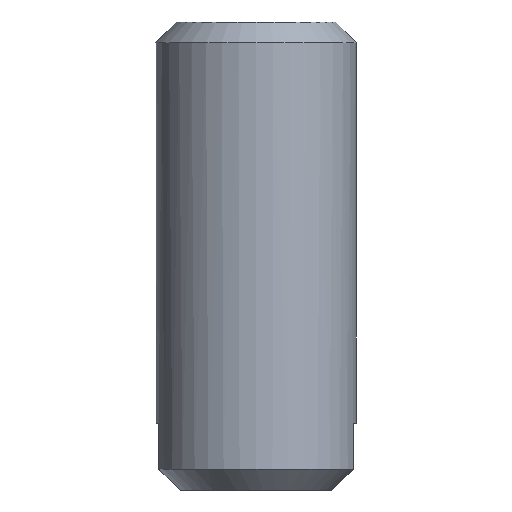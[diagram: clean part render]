
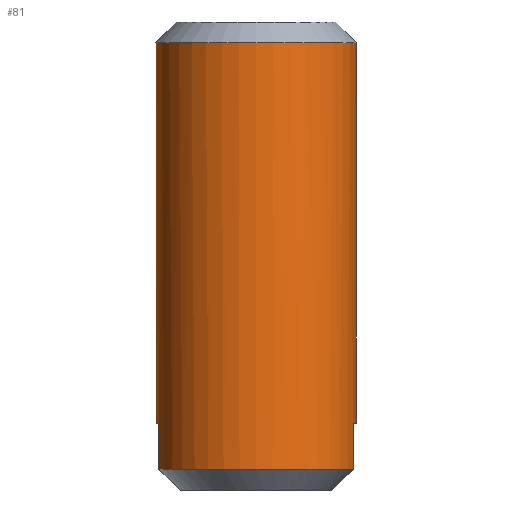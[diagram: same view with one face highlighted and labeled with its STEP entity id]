
A CAD part, front view. The second image highlights one B-rep face of the part: STEP entity #81.
In plain terms, the highlighted cylindrical face has radius 3 mm (diameter 6 mm), a full revolution.
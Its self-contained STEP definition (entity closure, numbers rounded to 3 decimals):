
#81 = ADVANCED_FACE( '', ( #104, #105 ), #106, .T. );
#104 = FACE_OUTER_BOUND( '', #133, .T. );
#105 = FACE_OUTER_BOUND( '', #134, .T. );
#106 = CYLINDRICAL_SURFACE( '', #135, 3. );
#133 = EDGE_LOOP( '', ( #184 ) );
#134 = EDGE_LOOP( '', ( #185, #186, #187, #188, #189, #190, #191, #192 ) );
#135 = AXIS2_PLACEMENT_3D( '', #193, #194, #195 );
#184 = ORIENTED_EDGE( '', *, *, #243, .F. );
#185 = ORIENTED_EDGE( '', *, *, #236, .F. );
#186 = ORIENTED_EDGE( '', *, *, #244, .T. );
#187 = ORIENTED_EDGE( '', *, *, #228, .F. );
#188 = ORIENTED_EDGE( '', *, *, #245, .T. );
#189 = ORIENTED_EDGE( '', *, *, #230, .F. );
#190 = ORIENTED_EDGE( '', *, *, #246, .T. );
#191 = ORIENTED_EDGE( '', *, *, #234, .F. );
#192 = ORIENTED_EDGE( '', *, *, #247, .T. );
#193 = CARTESIAN_POINT( '', ( 0., 0., 0. ) );
#194 = DIRECTION( '', ( 0., 0., -1. ) );
#195 = DIRECTION( '', ( 1., 0., 0. ) );
#228 = EDGE_CURVE( '', #251, #253, #254, .T. );
#230 = EDGE_CURVE( '', #255, #257, #258, .F. );
#234 = EDGE_CURVE( '', #263, #265, #266, .T. );
#236 = EDGE_CURVE( '', #267, #269, #270, .F. );
#243 = EDGE_CURVE( '', #280, #280, #281, .T. );
#244 = EDGE_CURVE( '', #267, #253, #282, .T. );
#245 = EDGE_CURVE( '', #251, #257, #283, .T. );
#246 = EDGE_CURVE( '', #255, #265, #284, .T. );
#247 = EDGE_CURVE( '', #263, #269, #285, .T. );
#251 = VERTEX_POINT( '', #289 );
#253 = VERTEX_POINT( '', #294 );
#254 = LINE( '', #295, #296 );
#255 = VERTEX_POINT( '', #297 );
#257 = VERTEX_POINT( '', #300 );
#258 = LINE( '', #301, #302 );
#263 = VERTEX_POINT( '', #311 );
#265 = VERTEX_POINT( '', #316 );
#266 = LINE( '', #317, #318 );
#267 = VERTEX_POINT( '', #319 );
#269 = VERTEX_POINT( '', #322 );
#270 = LINE( '', #323, #324 );
#280 = VERTEX_POINT( '', #338 );
#281 = CIRCLE( '', #339, 3. );
#282 = CIRCLE( '', #340, 3. );
#283 = CIRCLE( '', #341, 3. );
#284 = CIRCLE( '', #342, 3. );
#285 = CIRCLE( '', #343, 3. );
#289 = CARTESIAN_POINT( '', ( -2.905, -0.75, -13.387 ) );
#294 = CARTESIAN_POINT( '', ( -2.905, -0.75, -12. ) );
#295 = CARTESIAN_POINT( '', ( -2.905, -0.75, 0. ) );
#296 = VECTOR( '', #346, 1000. );
#297 = CARTESIAN_POINT( '', ( 2.905, -0.75, -12. ) );
#300 = CARTESIAN_POINT( '', ( 2.905, -0.75, -13.387 ) );
#301 = CARTESIAN_POINT( '', ( 2.905, -0.75, 0. ) );
#302 = VECTOR( '', #348, 1000. );
#311 = CARTESIAN_POINT( '', ( 2.905, 0.75, -13.387 ) );
#316 = CARTESIAN_POINT( '', ( 2.905, 0.75, -12. ) );
#317 = CARTESIAN_POINT( '', ( 2.905, 0.75, 0. ) );
#318 = VECTOR( '', #350, 1000. );
#319 = CARTESIAN_POINT( '', ( -2.905, 0.75, -12. ) );
#322 = CARTESIAN_POINT( '', ( -2.905, 0.75, -13.387 ) );
#323 = CARTESIAN_POINT( '', ( -2.905, 0.75, 0. ) );
#324 = VECTOR( '', #352, 1000. );
#338 = CARTESIAN_POINT( '', ( 3., 0., -0.613 ) );
#339 = AXIS2_PLACEMENT_3D( '', #363, #364, #365 );
#340 = AXIS2_PLACEMENT_3D( '', #366, #367, #368 );
#341 = AXIS2_PLACEMENT_3D( '', #369, #370, #371 );
#342 = AXIS2_PLACEMENT_3D( '', #372, #373, #374 );
#343 = AXIS2_PLACEMENT_3D( '', #375, #376, #377 );
#346 = DIRECTION( '', ( 0., 0., 1. ) );
#348 = DIRECTION( '', ( 0., 0., 1. ) );
#350 = DIRECTION( '', ( 0., 0., 1. ) );
#352 = DIRECTION( '', ( 0., 0., 1. ) );
#363 = CARTESIAN_POINT( '', ( 0., 0., -0.613 ) );
#364 = DIRECTION( '', ( 0., 0., 1. ) );
#365 = DIRECTION( '', ( 1., 0., 0. ) );
#366 = CARTESIAN_POINT( '', ( 0., 0., -12. ) );
#367 = DIRECTION( '', ( 0., 0., 1. ) );
#368 = DIRECTION( '', ( 1., 0., 0. ) );
#369 = CARTESIAN_POINT( '', ( 0., 0., -13.387 ) );
#370 = DIRECTION( '', ( 0., 0., 1. ) );
#371 = DIRECTION( '', ( 1., 0., 0. ) );
#372 = CARTESIAN_POINT( '', ( 0., 0., -12. ) );
#373 = DIRECTION( '', ( 0., 0., 1. ) );
#374 = DIRECTION( '', ( 1., 0., 0. ) );
#375 = CARTESIAN_POINT( '', ( 0., 0., -13.387 ) );
#376 = DIRECTION( '', ( 0., 0., 1. ) );
#377 = DIRECTION( '', ( 1., 0., 0. ) );
